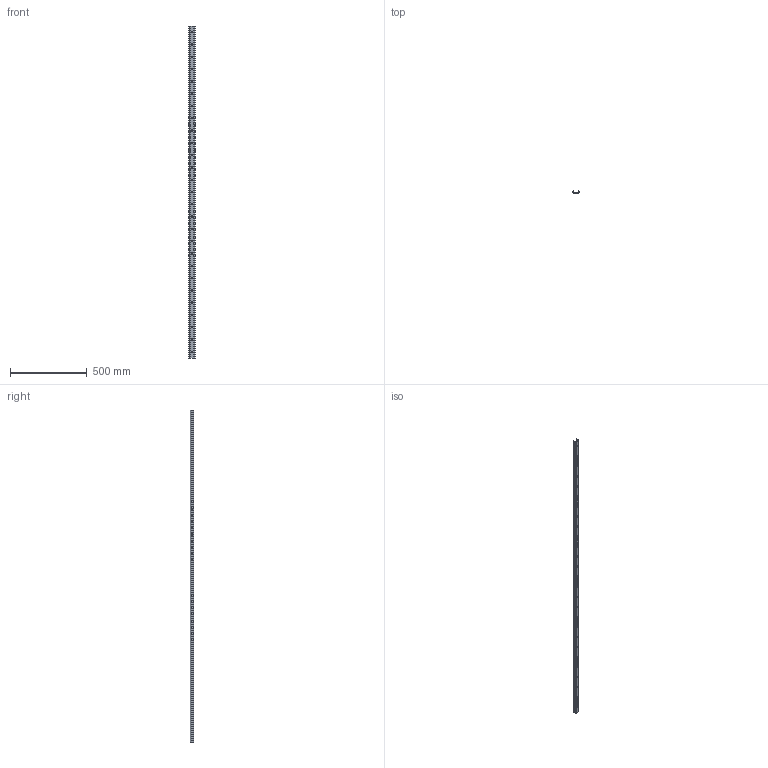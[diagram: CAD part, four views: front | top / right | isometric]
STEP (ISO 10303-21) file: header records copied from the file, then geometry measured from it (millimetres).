
FILE_DESCRIPTION(('STEP AP214'),'1');
FILE_NAME('rail_tex40-2160.stp','2019-03-08T08:33:34',('TraceParts'),('TraceParts S.A.'),'Spatial InterOp 3D',' ',' ');
FILE_SCHEMA(('automotive_design'));
Length unit declared in the file: millimetre
Products named in the file (1): rail_tex40-2160
Bounding box: 39.53 x 21 x 2160 mm (x, y, z)
Volume: 422315.2 mm3; surface area: 297554.7 mm2
Topology: 1 solids, 1 shells, 479 faces, 1242 edges, 828 vertices
Faces by surface type: plane 336, bspline 77, cylinder 66
Entity records: 30243 total; most frequent: CARTESIAN_POINT 14919, ORIENTED_EDGE 2484, DIRECTION 2026, EDGE_CURVE 1242, LINE 956, VECTOR 956, VERTEX_POINT 828, EDGE_LOOP 596
